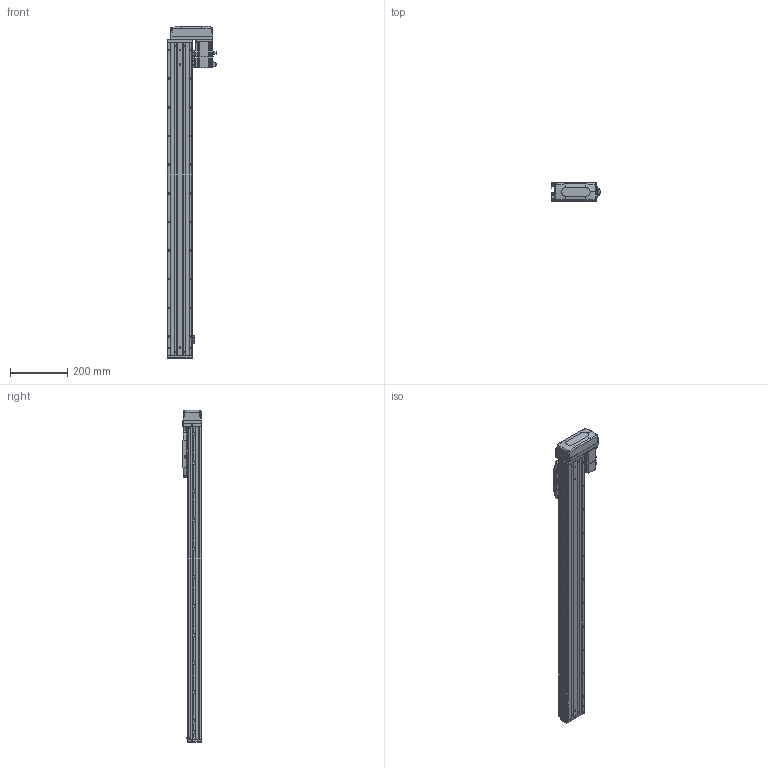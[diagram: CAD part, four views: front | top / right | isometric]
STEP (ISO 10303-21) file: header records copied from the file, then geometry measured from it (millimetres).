
FILE_DESCRIPTION (( 'STEP AP203' ), '1' );
FILE_NAME ('CTHA86-900-BL-M20-C4L.step', '2022-04-26T00:52:53', ( '微软用户' ), ( '微软中国' ), 'SwSTEP 2.0', 'SolidWorks 2020', '' );
FILE_SCHEMA (( 'CONFIG_CONTROL_DESIGN' ));
Length unit declared in the file: millimetre
Products named in the file (21): _X2_4E0983F1_X0_200W_1; KTHA86-001_1090; CTHA86-015-1_CTHA86-015-2; GBT77-2000 M3×3; CTHA86-002; KTHA86-004; CTHA86-033; GBT 70.1-M3×20; KTHA86-005; CTHA86-900-BL-M20-C4L; GBT70.1 M5℅16; GB¨uT 70.2-M3¡Á5_M3¡Á6; GBT 70.1-M3×16; CTHA86-031; EE_SX911P_R; GBT 70.1-M3℅6; CTHA86-030; CTHA60-017; CTHA60-016; GBT 70.3-M3℅6; CTHA60-021
Assembly tree (66 placements, depth 2):
  CTHA86-900-BL-M20-C4L
    KTHA86-001_1090
    KTHA86-004
    KTHA86-005
    GB¨uT 70.2-M3¡Á5_M3¡Á6  x10
    EE_SX911P_R  x3
    CTHA60-017  x3
    CTHA60-021  x2
    GBT77-2000 M3×3  x6
    GBT 70.1-M3×20
    GBT70.1 M5℅16  x14
    GBT 70.1-M3×16  x5
    GBT 70.1-M3℅6  x6
    CTHA60-016  x2
    _X2_4E0983F1_X0_200W_1
    CTHA86-002
    CTHA86-031
    CTHA86-030  x2
    GBT 70.3-M3℅6  x4
    CTHA86-015-1_CTHA86-015-2
    CTHA86-033
Bounding box: 172.7 x 68 x 1159 mm (x, y, z)
Volume: 4343379.6 mm3; surface area: 741079.8 mm2
Topology: 68 solids, 68 shells, 2846 faces, 6820 edges, 4204 vertices
Faces by surface type: plane 1499, cylinder 741, cone 375, torus 132, bspline 75, sphere 24
Entity records: 51019 total; most frequent: CARTESIAN_POINT 9843, DIRECTION 7959, ORIENTED_EDGE 7740, EDGE_CURVE 3870, AXIS2_PLACEMENT_3D 2704, LINE 2551, VECTOR 2551, VERTEX_POINT 2436
